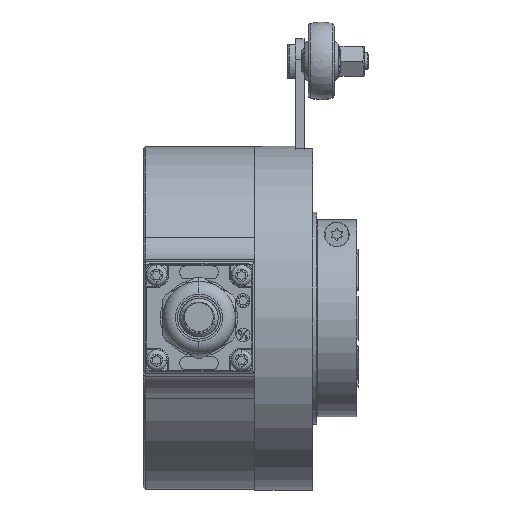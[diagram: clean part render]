
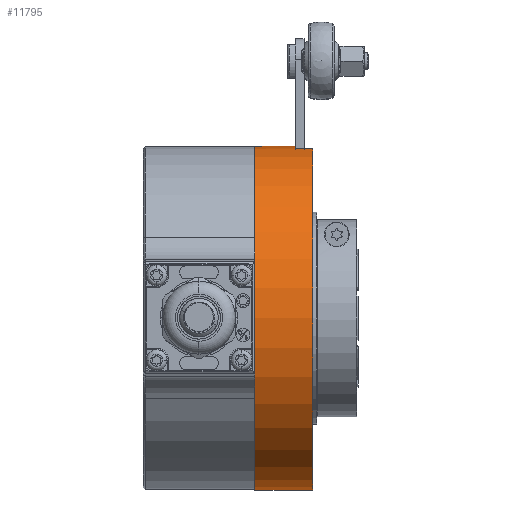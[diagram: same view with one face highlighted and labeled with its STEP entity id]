
A CAD part, top view. The second image highlights one B-rep face of the part: STEP entity #11795.
In plain terms, the highlighted cylindrical face has radius 40.075 mm (diameter 80.15 mm), a partial arc.
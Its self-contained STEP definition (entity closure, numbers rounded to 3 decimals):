
#156 = CARTESIAN_POINT ( 'NONE',  ( 0., -40.075, 0. ) ) ;
#1450 = DIRECTION ( 'NONE',  ( -1., 0., 0. ) ) ;
#3590 = ORIENTED_EDGE ( 'NONE', *, *, #12312, .T. ) ;
#3861 = EDGE_CURVE ( 'NONE', #11984, #17923, #26691, .T. ) ;
#3877 = AXIS2_PLACEMENT_3D ( 'NONE', #26604, #20187, #5774 ) ;
#4024 = CIRCLE ( 'NONE', #23865, 40.075 ) ;
#4741 = DIRECTION ( 'NONE',  ( 0., 1., 0. ) ) ;
#5320 = LINE ( 'NONE', #28786, #16686 ) ;
#5562 = DIRECTION ( 'NONE',  ( 0., 1., 0. ) ) ;
#5774 = DIRECTION ( 'NONE',  ( 0., 1., 0. ) ) ;
#6242 = VECTOR ( 'NONE', #1450, 1000. ) ;
#6247 = ORIENTED_EDGE ( 'NONE', *, *, #3861, .T. ) ;
#6825 = EDGE_CURVE ( 'NONE', #16920, #22322, #4024, .T. ) ;
#7957 = VERTEX_POINT ( 'NONE', #11047 ) ;
#8033 = ORIENTED_EDGE ( 'NONE', *, *, #19004, .F. ) ;
#8550 = LINE ( 'NONE', #29265, #6242 ) ;
#9020 = DIRECTION ( 'NONE',  ( 0., 1., 0. ) ) ;
#9106 = ORIENTED_EDGE ( 'NONE', *, *, #25884, .F. ) ;
#9111 = DIRECTION ( 'NONE',  ( -1., 0., 0. ) ) ;
#9264 = CARTESIAN_POINT ( 'NONE',  ( -12.775, -40.075, 0. ) ) ;
#9379 = CYLINDRICAL_SURFACE ( 'NONE', #24764, 40.075 ) ;
#10157 = CARTESIAN_POINT ( 'NONE',  ( 9.5, 39.468, 6.95 ) ) ;
#11047 = CARTESIAN_POINT ( 'NONE',  ( 0., 40.075, 0. ) ) ;
#11181 = AXIS2_PLACEMENT_3D ( 'NONE', #29028, #14880, #5562 ) ;
#11795 = ADVANCED_FACE ( 'NONE', ( #14348 ), #9379, .T. ) ;
#11984 = VERTEX_POINT ( 'NONE', #26486 ) ;
#12312 = EDGE_CURVE ( 'NONE', #17923, #16920, #5320, .T. ) ;
#13554 = VECTOR ( 'NONE', #9111, 1000. ) ;
#14348 = FACE_OUTER_BOUND ( 'NONE', #14928, .T. ) ;
#14880 = DIRECTION ( 'NONE',  ( -1., 0., 0. ) ) ;
#14928 = EDGE_LOOP ( 'NONE', ( #8033, #6247, #3590, #23645, #25796, #9106 ) ) ;
#16674 = VERTEX_POINT ( 'NONE', #156 ) ;
#16686 = VECTOR ( 'NONE', #28628, 1000. ) ;
#16920 = VERTEX_POINT ( 'NONE', #10157 ) ;
#17923 = VERTEX_POINT ( 'NONE', #19906 ) ;
#18334 = DIRECTION ( 'NONE',  ( -1., 0., 0. ) ) ;
#19004 = EDGE_CURVE ( 'NONE', #11984, #16674, #30570, .T. ) ;
#19906 = CARTESIAN_POINT ( 'NONE',  ( 13.5, 39.468, 6.95 ) ) ;
#20187 = DIRECTION ( 'NONE',  ( -1., 0., 0. ) ) ;
#21502 = DIRECTION ( 'NONE',  ( -1., 0., 0. ) ) ;
#22322 = VERTEX_POINT ( 'NONE', #22918 ) ;
#22918 = CARTESIAN_POINT ( 'NONE',  ( 9.5, 40.075, 0. ) ) ;
#23389 = CARTESIAN_POINT ( 'NONE',  ( -12.775, 0., 0. ) ) ;
#23623 = CIRCLE ( 'NONE', #11181, 40.075 ) ;
#23645 = ORIENTED_EDGE ( 'NONE', *, *, #6825, .T. ) ;
#23865 = AXIS2_PLACEMENT_3D ( 'NONE', #25505, #18334, #9020 ) ;
#24764 = AXIS2_PLACEMENT_3D ( 'NONE', #23389, #21502, #4741 ) ;
#25505 = CARTESIAN_POINT ( 'NONE',  ( 9.5, 0., 0. ) ) ;
#25796 = ORIENTED_EDGE ( 'NONE', *, *, #27942, .T. ) ;
#25884 = EDGE_CURVE ( 'NONE', #16674, #7957, #23623, .T. ) ;
#26486 = CARTESIAN_POINT ( 'NONE',  ( 13.5, -40.075, 0. ) ) ;
#26604 = CARTESIAN_POINT ( 'NONE',  ( 13.5, 0., 0. ) ) ;
#26691 = CIRCLE ( 'NONE', #3877, 40.075 ) ;
#27942 = EDGE_CURVE ( 'NONE', #22322, #7957, #8550, .T. ) ;
#28628 = DIRECTION ( 'NONE',  ( -1., 0., 0. ) ) ;
#28786 = CARTESIAN_POINT ( 'NONE',  ( -12.775, 39.468, 6.95 ) ) ;
#29028 = CARTESIAN_POINT ( 'NONE',  ( 0., 0., 0. ) ) ;
#29265 = CARTESIAN_POINT ( 'NONE',  ( -12.775, 40.075, 0. ) ) ;
#30570 = LINE ( 'NONE', #9264, #13554 ) ;
